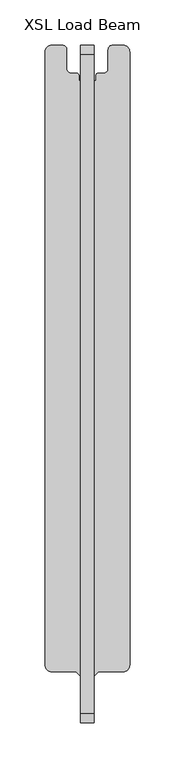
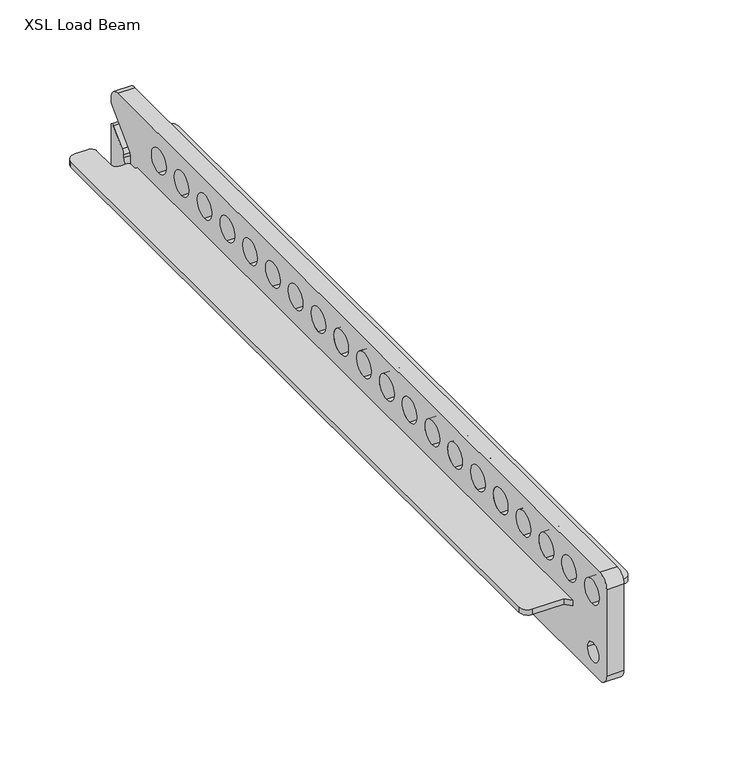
"""IFC4 building model written with IfcOpenShell, lengths in millimetres: proxy geometry, d&b SL-Series XSL Load Beam : XSL Load Beam."""

from ifc_helpers import new_model, si_unit, point, frame, frame_2d, origin, place, context, project, spatial, polyline, circle_curve, trimmed, segment, composite_curve, outline, extrude, source, transform, mapped, element, save


def xsl_load_beam_a079c9b4(model_context):
    return source(origin(), model_context, "Body", "SweptSolid", [
        extrude(outline(composite_curve([segment(trimmed(circle_curve(frame_2d((39.3, -149.8)), 7.7), [point((47.0, -149.8))], [point((39.3, -157.5))], False, "CARTESIAN"), True, "CONTINUOUS"), segment(polyline([(39.3, -157.5), (12.5, -157.5), (7.5, -162.5), (7.5, 496.75), (9.5, 496.75), (9.5, 502.5)]), True, "CONTINUOUS"), segment(trimmed(circle_curve(frame_2d((12.0, 502.5)), 2.5), [point((9.5, 502.5))], [point((12.0, 505.0))], False, "CARTESIAN"), True, "CONTINUOUS"), segment(polyline([(12.0, 505.0), (18.0, 505.0)]), True, "CONTINUOUS"), segment(trimmed(circle_curve(frame_2d((18.0, 510.0)), 5.0), [point((18.0, 505.0))], [point((23.0, 510.0))], True, "CARTESIAN"), True, "CONTINUOUS"), segment(polyline([(23.0, 510.0), (23.0, 531.0)]), True, "CONTINUOUS"), segment(trimmed(circle_curve(frame_2d((28.0, 531.0)), 5.0), [point((23.0, 531.0))], [point((28.0, 536.0))], False, "CARTESIAN"), True, "CONTINUOUS"), segment(polyline([(28.0, 536.0), (39.5, 536.0)]), True, "CONTINUOUS"), segment(trimmed(circle_curve(frame_2d((39.5, 528.5)), 7.5), [point((39.5, 536.0))], [point((47.0, 528.5))], False, "CARTESIAN"), True, "CONTINUOUS"), segment(polyline([(47.0, 528.5), (47.0, -149.8)]), True, "CONTINUOUS")], self_intersect=False)), frame((0.0, 0.0, 119.5), z_axis=(0.0, 0.0, 1.0), x_axis=(1.0, 0.0, 0.0)), (0.0, 0.0, 1.0), 5.0),
        extrude(outline(composite_curve([segment(trimmed(circle_curve(frame_2d((-39.3, -149.8)), 7.7), [point((-39.3, -157.5))], [point((-47.0, -149.8))], False, "CARTESIAN"), True, "CONTINUOUS"), segment(polyline([(-47.0, -149.8), (-47.0, 528.5)]), True, "CONTINUOUS"), segment(trimmed(circle_curve(frame_2d((-39.5, 528.5)), 7.5), [point((-47.0, 528.5))], [point((-39.5, 536.0))], False, "CARTESIAN"), True, "CONTINUOUS"), segment(polyline([(-39.5, 536.0), (-28.0, 536.0)]), True, "CONTINUOUS"), segment(trimmed(circle_curve(frame_2d((-28.0, 531.0)), 5.0), [point((-28.0, 536.0))], [point((-23.0, 531.0))], False, "CARTESIAN"), True, "CONTINUOUS"), segment(polyline([(-23.0, 531.0), (-23.0, 510.0)]), True, "CONTINUOUS"), segment(trimmed(circle_curve(frame_2d((-18.0, 510.0)), 5.0), [point((-23.0, 510.0))], [point((-18.0, 505.0))], True, "CARTESIAN"), True, "CONTINUOUS"), segment(polyline([(-18.0, 505.0), (-12.0, 505.0)]), True, "CONTINUOUS"), segment(trimmed(circle_curve(frame_2d((-12.0, 502.5)), 2.5), [point((-12.0, 505.0))], [point((-9.5, 502.5))], False, "CARTESIAN"), True, "CONTINUOUS"), segment(polyline([(-9.5, 502.5), (-9.5, 496.75), (-7.5, 496.75), (-7.5, -162.5), (-12.5, -157.5), (-39.3, -157.5)]), True, "CONTINUOUS")], self_intersect=False)), frame((0.0, 0.0, 119.5), z_axis=(0.0, 0.0, 1.0), x_axis=(1.0, 0.0, 0.0)), (0.0, 0.0, 1.0), 5.0),
        extrude(outline(composite_curve([segment(polyline([(-204.0, 175.5), (526.0, 175.5)]), True, "CONTINUOUS"), segment(trimmed(circle_curve(frame_2d((526.0, 165.5)), 10.0), [point((526.0, 175.5))], [point((536.0, 165.5))], False, "CARTESIAN"), True, "CONTINUOUS"), segment(polyline([(536.0, 165.5), (536.0, 160.5563492), (508.1750943, 132.7314435)]), True, "CONTINUOUS"), segment(trimmed(circle_curve(frame_2d((512.2191296, 128.6874082)), 5.7191296), [point((508.1750943, 132.7314435))], [point((506.5, 128.6874082))], True, "CARTESIAN"), True, "CONTINUOUS"), segment(polyline([(506.5, 128.6874082), (506.5, 121.0)]), True, "CONTINUOUS"), segment(trimmed(circle_curve(frame_2d((512.0, 121.0)), 5.5), [point((506.5, 121.0))], [point((517.5, 121.0))], True, "CARTESIAN"), True, "CONTINUOUS"), segment(polyline([(517.5, 121.0), (517.5, 124.0326344)]), True, "CONTINUOUS"), segment(trimmed(circle_curve(frame_2d((523.4567475, 124.0326344)), 5.9567475), [point((517.5, 124.0326344))], [point((519.244691, 128.244691))], False, "CARTESIAN"), True, "CONTINUOUS"), segment(polyline([(519.244691, 128.244691), (532.5935376, 141.5935376)]), True, "CONTINUOUS"), segment(trimmed(circle_curve(frame_2d((534.0045405, 140.1825347)), 1.9954595), [point((532.5935376, 141.5935376))], [point((536.0, 140.1825347))], False, "CARTESIAN"), True, "CONTINUOUS"), segment(polyline([(536.0, 140.1825347), (536.0, 85.5)]), True, "CONTINUOUS"), segment(trimmed(circle_curve(frame_2d((526.0, 85.5)), 10.0), [point((536.0, 85.5))], [point((526.0, 75.5))], False, "CARTESIAN"), True, "CONTINUOUS"), segment(polyline([(526.0, 75.5), (-204.0, 75.5)]), True, "CONTINUOUS"), segment(trimmed(circle_curve(frame_2d((-204.0, 85.5)), 10.0), [point((-204.0, 75.5))], [point((-214.0, 85.5))], False, "CARTESIAN"), True, "CONTINUOUS"), segment(polyline([(-214.0, 85.5), (-214.0, 165.5)]), True, "CONTINUOUS"), segment(trimmed(circle_curve(frame_2d((-204.0, 165.5)), 10.0), [point((-214.0, 165.5))], [point((-204.0, 175.5))], False, "CARTESIAN"), True, "CONTINUOUS")], self_intersect=False), holes=[composite_curve([segment(trimmed(circle_curve(frame_2d((-192.0, 150.5)), 11.0), [point((-192.0, 139.5))], [point((-192.0, 161.5))], True, "CARTESIAN"), True, "CONTINUOUS"), segment(trimmed(circle_curve(frame_2d((-192.0, 150.5)), 11.0), [point((-192.0, 161.5))], [point((-192.0, 139.5))], True, "CARTESIAN"), True, "CONTINUOUS")], self_intersect=False), composite_curve([segment(trimmed(circle_curve(frame_2d((-193.75, 95.5)), 8.5), [point((-202.25, 95.5))], [point((-185.25, 95.5))], True, "CARTESIAN"), True, "CONTINUOUS"), segment(trimmed(circle_curve(frame_2d((-193.75, 95.5)), 8.5), [point((-185.25, 95.5))], [point((-202.25, 95.5))], True, "CARTESIAN"), True, "CONTINUOUS")], self_intersect=False), composite_curve([segment(trimmed(circle_curve(frame_2d((-13.75, 95.5)), 8.5), [point((-22.25, 95.5))], [point((-5.25, 95.5))], True, "CARTESIAN"), True, "CONTINUOUS"), segment(trimmed(circle_curve(frame_2d((-13.75, 95.5)), 8.5), [point((-5.25, 95.5))], [point((-22.25, 95.5))], True, "CARTESIAN"), True, "CONTINUOUS")], self_intersect=False), composite_curve([segment(trimmed(circle_curve(frame_2d((237.75, 95.5)), 8.5), [point((229.25, 95.5))], [point((246.25, 95.5))], True, "CARTESIAN"), True, "CONTINUOUS"), segment(trimmed(circle_curve(frame_2d((237.75, 95.5)), 8.5), [point((246.25, 95.5))], [point((229.25, 95.5))], True, "CARTESIAN"), True, "CONTINUOUS")], self_intersect=False), composite_curve([segment(trimmed(circle_curve(frame_2d((417.75, 95.5)), 8.5), [point((409.25, 95.5))], [point((426.25, 95.5))], True, "CARTESIAN"), True, "CONTINUOUS"), segment(trimmed(circle_curve(frame_2d((417.75, 95.5)), 8.5), [point((426.25, 95.5))], [point((409.25, 95.5))], True, "CARTESIAN"), True, "CONTINUOUS")], self_intersect=False), composite_curve([segment(trimmed(circle_curve(frame_2d((381.5, 95.5)), 11.0), [point((370.5, 95.5))], [point((392.5, 95.5))], True, "CARTESIAN"), True, "CONTINUOUS"), segment(trimmed(circle_curve(frame_2d((381.5, 95.5)), 11.0), [point((392.5, 95.5))], [point((370.5, 95.5))], True, "CARTESIAN"), True, "CONTINUOUS")], self_intersect=False), composite_curve([segment(trimmed(circle_curve(frame_2d((465.0, 95.5)), 5.5), [point((459.5, 95.5))], [point((470.5, 95.5))], True, "CARTESIAN"), True, "CONTINUOUS"), segment(trimmed(circle_curve(frame_2d((465.0, 95.5)), 5.5), [point((470.5, 95.5))], [point((459.5, 95.5))], True, "CARTESIAN"), True, "CONTINUOUS")], self_intersect=False), composite_curve([segment(trimmed(circle_curve(frame_2d((-157.25, 150.5)), 11.0), [point((-157.25, 139.5))], [point((-157.25, 161.5))], True, "CARTESIAN"), True, "CONTINUOUS"), segment(trimmed(circle_curve(frame_2d((-157.25, 150.5)), 11.0), [point((-157.25, 161.5))], [point((-157.25, 139.5))], True, "CARTESIAN"), True, "CONTINUOUS")], self_intersect=False), composite_curve([segment(trimmed(circle_curve(frame_2d((-122.75, 150.5)), 11.0), [point((-122.75, 139.5))], [point((-122.75, 161.5))], True, "CARTESIAN"), True, "CONTINUOUS"), segment(trimmed(circle_curve(frame_2d((-122.75, 150.5)), 11.0), [point((-122.75, 161.5))], [point((-122.75, 139.5))], True, "CARTESIAN"), True, "CONTINUOUS")], self_intersect=False), composite_curve([segment(trimmed(circle_curve(frame_2d((-88.25, 150.5)), 11.0), [point((-88.25, 139.5))], [point((-88.25, 161.5))], True, "CARTESIAN"), True, "CONTINUOUS"), segment(trimmed(circle_curve(frame_2d((-88.25, 150.5)), 11.0), [point((-88.25, 161.5))], [point((-88.25, 139.5))], True, "CARTESIAN"), True, "CONTINUOUS")], self_intersect=False), composite_curve([segment(trimmed(circle_curve(frame_2d((-53.75, 150.5)), 11.0), [point((-53.75, 139.5))], [point((-53.75, 161.5))], True, "CARTESIAN"), True, "CONTINUOUS"), segment(trimmed(circle_curve(frame_2d((-53.75, 150.5)), 11.0), [point((-53.75, 161.5))], [point((-53.75, 139.5))], True, "CARTESIAN"), True, "CONTINUOUS")], self_intersect=False), composite_curve([segment(trimmed(circle_curve(frame_2d((-19.25, 150.5)), 11.0), [point((-19.25, 139.5))], [point((-19.25, 161.5))], True, "CARTESIAN"), True, "CONTINUOUS"), segment(trimmed(circle_curve(frame_2d((-19.25, 150.5)), 11.0), [point((-19.25, 161.5))], [point((-19.25, 139.5))], True, "CARTESIAN"), True, "CONTINUOUS")], self_intersect=False), composite_curve([segment(trimmed(circle_curve(frame_2d((15.25, 150.5)), 11.0), [point((15.25, 139.5))], [point((15.25, 161.5))], True, "CARTESIAN"), True, "CONTINUOUS"), segment(trimmed(circle_curve(frame_2d((15.25, 150.5)), 11.0), [point((15.25, 161.5))], [point((15.25, 139.5))], True, "CARTESIAN"), True, "CONTINUOUS")], self_intersect=False), composite_curve([segment(trimmed(circle_curve(frame_2d((49.75, 150.5)), 11.0), [point((49.75, 139.5))], [point((49.75, 161.5))], True, "CARTESIAN"), True, "CONTINUOUS"), segment(trimmed(circle_curve(frame_2d((49.75, 150.5)), 11.0), [point((49.75, 161.5))], [point((49.75, 139.5))], True, "CARTESIAN"), True, "CONTINUOUS")], self_intersect=False), composite_curve([segment(trimmed(circle_curve(frame_2d((84.25, 150.5)), 11.0), [point((84.25, 139.5))], [point((84.25, 161.5))], True, "CARTESIAN"), True, "CONTINUOUS"), segment(trimmed(circle_curve(frame_2d((84.25, 150.5)), 11.0), [point((84.25, 161.5))], [point((84.25, 139.5))], True, "CARTESIAN"), True, "CONTINUOUS")], self_intersect=False), composite_curve([segment(trimmed(circle_curve(frame_2d((118.75, 150.5)), 11.0), [point((118.75, 139.5))], [point((118.75, 161.5))], True, "CARTESIAN"), True, "CONTINUOUS"), segment(trimmed(circle_curve(frame_2d((118.75, 150.5)), 11.0), [point((118.75, 161.5))], [point((118.75, 139.5))], True, "CARTESIAN"), True, "CONTINUOUS")], self_intersect=False), composite_curve([segment(trimmed(circle_curve(frame_2d((429.5, 150.5)), 11.0), [point((429.5, 139.5))], [point((429.5, 161.5))], True, "CARTESIAN"), True, "CONTINUOUS"), segment(trimmed(circle_curve(frame_2d((429.5, 150.5)), 11.0), [point((429.5, 161.5))], [point((429.5, 139.5))], True, "CARTESIAN"), True, "CONTINUOUS")], self_intersect=False), composite_curve([segment(trimmed(circle_curve(frame_2d((394.75, 150.5)), 11.0), [point((394.75, 139.5))], [point((394.75, 161.5))], True, "CARTESIAN"), True, "CONTINUOUS"), segment(trimmed(circle_curve(frame_2d((394.75, 150.5)), 11.0), [point((394.75, 161.5))], [point((394.75, 139.5))], True, "CARTESIAN"), True, "CONTINUOUS")], self_intersect=False), composite_curve([segment(trimmed(circle_curve(frame_2d((360.25, 150.5)), 11.0), [point((360.25, 139.5))], [point((360.25, 161.5))], True, "CARTESIAN"), True, "CONTINUOUS"), segment(trimmed(circle_curve(frame_2d((360.25, 150.5)), 11.0), [point((360.25, 161.5))], [point((360.25, 139.5))], True, "CARTESIAN"), True, "CONTINUOUS")], self_intersect=False), composite_curve([segment(trimmed(circle_curve(frame_2d((325.75, 150.5)), 11.0), [point((325.75, 139.5))], [point((325.75, 161.5))], True, "CARTESIAN"), True, "CONTINUOUS"), segment(trimmed(circle_curve(frame_2d((325.75, 150.5)), 11.0), [point((325.75, 161.5))], [point((325.75, 139.5))], True, "CARTESIAN"), True, "CONTINUOUS")], self_intersect=False), composite_curve([segment(trimmed(circle_curve(frame_2d((291.25, 150.5)), 11.0), [point((291.25, 139.5))], [point((291.25, 161.5))], True, "CARTESIAN"), True, "CONTINUOUS"), segment(trimmed(circle_curve(frame_2d((291.25, 150.5)), 11.0), [point((291.25, 161.5))], [point((291.25, 139.5))], True, "CARTESIAN"), True, "CONTINUOUS")], self_intersect=False), composite_curve([segment(trimmed(circle_curve(frame_2d((256.75, 150.5)), 11.0), [point((256.75, 139.5))], [point((256.75, 161.5))], True, "CARTESIAN"), True, "CONTINUOUS"), segment(trimmed(circle_curve(frame_2d((256.75, 150.5)), 11.0), [point((256.75, 161.5))], [point((256.75, 139.5))], True, "CARTESIAN"), True, "CONTINUOUS")], self_intersect=False), composite_curve([segment(trimmed(circle_curve(frame_2d((222.25, 150.5)), 11.0), [point((222.25, 139.5))], [point((222.25, 161.5))], True, "CARTESIAN"), True, "CONTINUOUS"), segment(trimmed(circle_curve(frame_2d((222.25, 150.5)), 11.0), [point((222.25, 161.5))], [point((222.25, 139.5))], True, "CARTESIAN"), True, "CONTINUOUS")], self_intersect=False), composite_curve([segment(trimmed(circle_curve(frame_2d((187.75, 150.5)), 11.0), [point((187.75, 139.5))], [point((187.75, 161.5))], True, "CARTESIAN"), True, "CONTINUOUS"), segment(trimmed(circle_curve(frame_2d((187.75, 150.5)), 11.0), [point((187.75, 161.5))], [point((187.75, 139.5))], True, "CARTESIAN"), True, "CONTINUOUS")], self_intersect=False), composite_curve([segment(trimmed(circle_curve(frame_2d((153.25, 150.5)), 11.0), [point((153.25, 139.5))], [point((153.25, 161.5))], True, "CARTESIAN"), True, "CONTINUOUS"), segment(trimmed(circle_curve(frame_2d((153.25, 150.5)), 11.0), [point((153.25, 161.5))], [point((153.25, 139.5))], True, "CARTESIAN"), True, "CONTINUOUS")], self_intersect=False), composite_curve([segment(trimmed(circle_curve(frame_2d((464.0, 150.5)), 11.0), [point((464.0, 139.5))], [point((464.0, 161.5))], True, "CARTESIAN"), True, "CONTINUOUS"), segment(trimmed(circle_curve(frame_2d((464.0, 150.5)), 11.0), [point((464.0, 161.5))], [point((464.0, 139.5))], True, "CARTESIAN"), True, "CONTINUOUS")], self_intersect=False)]), frame((-7.5, 0.0, 0.0), z_axis=(1.0, 0.0, 0.0), x_axis=(0.0, 1.0, 0.0)), (0.0, 0.0, 1.0), 15.0),
    ])


if __name__ == "__main__":
    model = new_model("IFC4")
    model_context = context("Model", 3, world=origin())
    ifc_project = project(units=[si_unit("LENGTHUNIT", "METRE", prefix="MILLI")], contexts=[model_context])
    site = spatial("IfcSite", under=ifc_project)
    building = spatial("IfcBuilding", under=site)
    placement = place(None, origin())
    xsl_load_beam_shape = xsl_load_beam_a079c9b4(model_context)
    element("IfcBuildingElementProxy", 1, Name="d&b SL-Series XSL Load Beam : XSL Load Beam", ObjectType="d&b SL-Series XSL Load Beam : XSL Load Beam", at=placement, inside=building, context=model_context, shape_type="MappedRepresentation", body=[
        mapped(xsl_load_beam_shape, transform((0.0, 0.0, 0.0), x_axis=(1.0, 0.0, 0.0), y_axis=(0.0, 1.0, 0.0), z_axis=(0.0, 0.0, 1.0))),
    ])
    save(model, "model.ifc")
